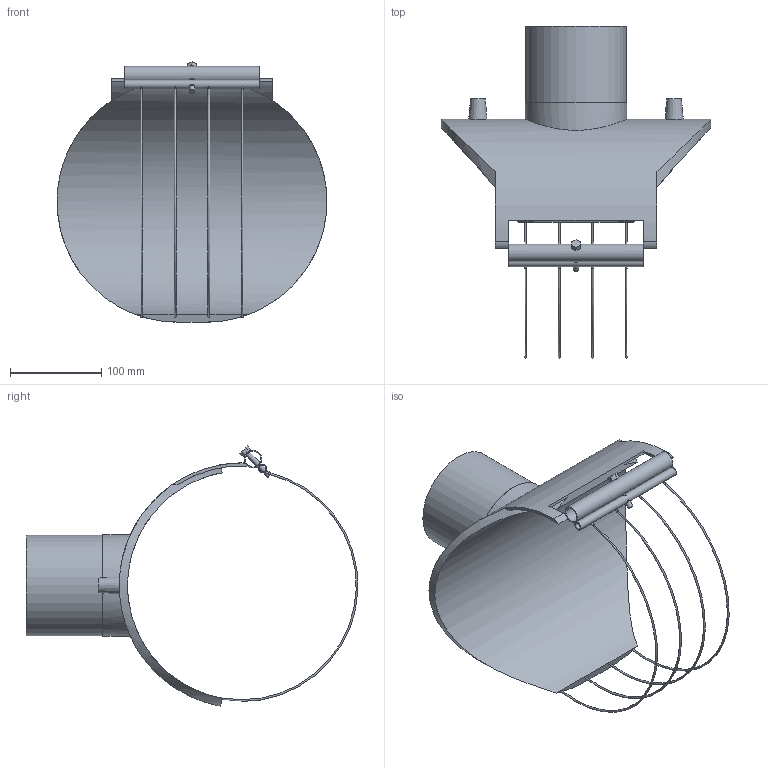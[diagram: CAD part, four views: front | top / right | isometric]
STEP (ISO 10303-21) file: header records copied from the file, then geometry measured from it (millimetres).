
FILE_DESCRIPTION(/* description */ ('Plasson Branch Saddle 250x110'),/* implementation_level */ '2;1');
FILE_NAME(/* name */ 'C:\Dropbox\KIMPROJECTS-Inventor 2019\99-16-3568-Processing\ElectroFusion Fittings\4958X4\4958X4250110T.stp',/* time_stamp */ '2025-05-07T12:15:44+03:00',/* author */ ('KIM'),/* organization */ (''),/* preprocessor_version */ 'ST-DEVELOPER v18.1',/* originating_system */ 'Autodesk Inventor 2021',/* authorisation */ '');
FILE_SCHEMA (('AUTOMOTIVE_DESIGN { 1 0 10303 214 3 1 1 }'));
Length unit declared in the file: millimetre
Products named in the file (1): 4958X4250110T
Bounding box: 295 x 362.93 x 284.56 mm (x, y, z)
Volume: 1128797.9 mm3; surface area: 289673 mm2
Topology: 1 solids, 1 shells, 63 faces, 178 edges, 115 vertices
Faces by surface type: cylinder 28, plane 25, torus 8, cone 2
Full cylindrical faces by diameter (mm): 6 x3, 7.6 x1, 8 x1, 16 x1, 17.2 x1, 89 x1, 110 x1, 111 x1
Entity records: 2953 total; most frequent: CARTESIAN_POINT 1258, ORIENTED_EDGE 360, DIRECTION 331, EDGE_CURVE 180, AXIS2_PLACEMENT_3D 135, VERTEX_POINT 115, EDGE_LOOP 81, CIRCLE 67
